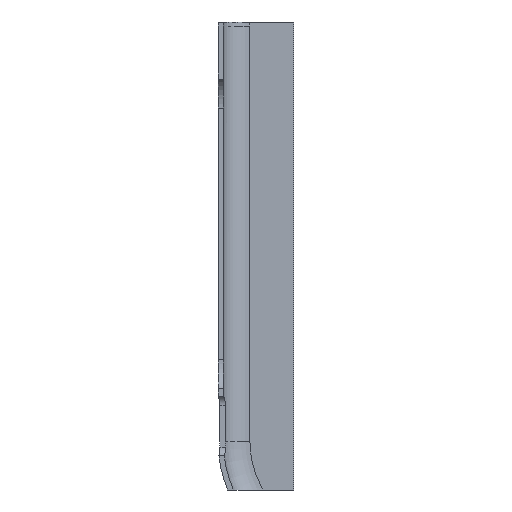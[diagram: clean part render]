
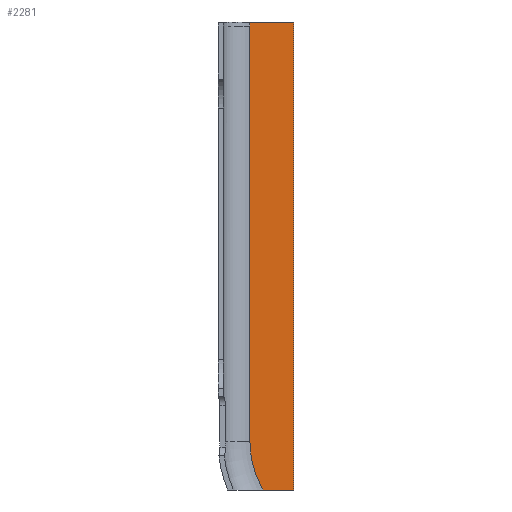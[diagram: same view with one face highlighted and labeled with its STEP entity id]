
A CAD part, front view. The second image highlights one B-rep face of the part: STEP entity #2281.
In plain terms, the highlighted planar face has unit normal (0, -1, 0).
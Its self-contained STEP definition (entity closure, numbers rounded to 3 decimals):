
#235 = CYLINDRICAL_SURFACE('',#236,6.);
#236 = AXIS2_PLACEMENT_3D('',#237,#238,#239);
#237 = CARTESIAN_POINT('',(-38.,7.2,47.));
#238 = DIRECTION('',(-0.,-0.,-1.));
#239 = DIRECTION('',(0.,1.,-0.));
#786 = VERTEX_POINT('',#787);
#787 = CARTESIAN_POINT('',(-38.,13.2,-47.));
#803 = TOROIDAL_SURFACE('',#804,22.,6.);
#804 = AXIS2_PLACEMENT_3D('',#805,#806,#807);
#805 = CARTESIAN_POINT('',(-16.,7.2,-47.));
#806 = DIRECTION('',(-0.,-1.,-0.));
#807 = DIRECTION('',(-1.,0.,0.));
#1017 = VERTEX_POINT('',#1018);
#1018 = CARTESIAN_POINT('',(-38.,13.2,47.));
#1032 = TOROIDAL_SURFACE('',#1033,22.,6.);
#1033 = AXIS2_PLACEMENT_3D('',#1034,#1035,#1036);
#1034 = CARTESIAN_POINT('',(-16.,7.2,47.));
#1035 = DIRECTION('',(-0.,-1.,-0.));
#1036 = DIRECTION('',(0.,0.,1.));
#1043 = EDGE_CURVE('',#1017,#786,#1044,.T.);
#1044 = SURFACE_CURVE('',#1045,(#1049,#1056),.PCURVE_S1.);
#1045 = LINE('',#1046,#1047);
#1046 = CARTESIAN_POINT('',(-38.,13.2,47.));
#1047 = VECTOR('',#1048,1.);
#1048 = DIRECTION('',(-0.,-0.,-1.));
#1049 = PCURVE('',#235,#1050);
#1050 = DEFINITIONAL_REPRESENTATION('',(#1051),#1055);
#1051 = LINE('',#1052,#1053);
#1052 = CARTESIAN_POINT('',(6.283,0.));
#1053 = VECTOR('',#1054,1.);
#1054 = DIRECTION('',(-0.,1.));
#1055 = ( GEOMETRIC_REPRESENTATION_CONTEXT(2) 
PARAMETRIC_REPRESENTATION_CONTEXT() REPRESENTATION_CONTEXT('2D SPACE',''
  ) );
#1056 = PCURVE('',#1057,#1062);
#1057 = PLANE('',#1058);
#1058 = AXIS2_PLACEMENT_3D('',#1059,#1060,#1061);
#1059 = CARTESIAN_POINT('',(-44.,13.2,-75.));
#1060 = DIRECTION('',(0.,1.,0.));
#1061 = DIRECTION('',(0.,-0.,1.));
#1062 = DEFINITIONAL_REPRESENTATION('',(#1063),#1067);
#1063 = LINE('',#1064,#1065);
#1064 = CARTESIAN_POINT('',(122.,6.));
#1065 = VECTOR('',#1066,1.);
#1066 = DIRECTION('',(-1.,0.));
#1067 = ( GEOMETRIC_REPRESENTATION_CONTEXT(2) 
PARAMETRIC_REPRESENTATION_CONTEXT() REPRESENTATION_CONTEXT('2D SPACE',''
  ) );
#1352 = PLANE('',#1353);
#1353 = AXIS2_PLACEMENT_3D('',#1354,#1355,#1356);
#1354 = CARTESIAN_POINT('',(-50.,-16.,-58.));
#1355 = DIRECTION('',(0.,0.,1.));
#1356 = DIRECTION('',(1.,0.,0.));
#1688 = PLANE('',#1689);
#1689 = AXIS2_PLACEMENT_3D('',#1690,#1691,#1692);
#1690 = CARTESIAN_POINT('',(-50.,-16.,48.));
#1691 = DIRECTION('',(0.,0.,1.));
#1692 = DIRECTION('',(1.,0.,0.));
#1807 = PLANE('',#1808);
#1808 = AXIS2_PLACEMENT_3D('',#1809,#1810,#1811);
#1809 = CARTESIAN_POINT('',(-28.,-16.,-58.));
#1810 = DIRECTION('',(1.,0.,0.));
#1811 = DIRECTION('',(0.,0.,1.));
#1947 = EDGE_CURVE('',#786,#1948,#1950,.T.);
#1948 = VERTEX_POINT('',#1949);
#1949 = CARTESIAN_POINT('',(-35.053,13.2,-58.));
#1950 = SURFACE_CURVE('',#1951,(#1956,#1963),.PCURVE_S1.);
#1951 = CIRCLE('',#1952,22.);
#1952 = AXIS2_PLACEMENT_3D('',#1953,#1954,#1955);
#1953 = CARTESIAN_POINT('',(-16.,13.2,-47.));
#1954 = DIRECTION('',(-0.,-1.,-0.));
#1955 = DIRECTION('',(-1.,0.,0.));
#1956 = PCURVE('',#803,#1957);
#1957 = DEFINITIONAL_REPRESENTATION('',(#1958),#1962);
#1958 = LINE('',#1959,#1960);
#1959 = CARTESIAN_POINT('',(0.,4.712));
#1960 = VECTOR('',#1961,1.);
#1961 = DIRECTION('',(1.,0.));
#1962 = ( GEOMETRIC_REPRESENTATION_CONTEXT(2) 
PARAMETRIC_REPRESENTATION_CONTEXT() REPRESENTATION_CONTEXT('2D SPACE',''
  ) );
#1963 = PCURVE('',#1057,#1964);
#1964 = DEFINITIONAL_REPRESENTATION('',(#1965),#1973);
#1965 = ( BOUNDED_CURVE() B_SPLINE_CURVE(2,(#1966,#1967,#1968,#1969,
#1970,#1971,#1972),.UNSPECIFIED.,.T.,.F.) B_SPLINE_CURVE_WITH_KNOTS((1,2
    ,2,2,2,1),(-2.094,0.,2.094,4.189,
6.283,8.378),.UNSPECIFIED.) CURVE() 
GEOMETRIC_REPRESENTATION_ITEM() RATIONAL_B_SPLINE_CURVE((1.,0.5,1.,0.5,
1.,0.5,1.)) REPRESENTATION_ITEM('') );
#1966 = CARTESIAN_POINT('',(28.,6.));
#1967 = CARTESIAN_POINT('',(-10.105,6.));
#1968 = CARTESIAN_POINT('',(8.947,39.));
#1969 = CARTESIAN_POINT('',(28.,72.));
#1970 = CARTESIAN_POINT('',(47.053,39.));
#1971 = CARTESIAN_POINT('',(66.105,6.));
#1972 = CARTESIAN_POINT('',(28.,6.));
#1973 = ( GEOMETRIC_REPRESENTATION_CONTEXT(2) 
PARAMETRIC_REPRESENTATION_CONTEXT() REPRESENTATION_CONTEXT('2D SPACE',''
  ) );
#2176 = VERTEX_POINT('',#2177);
#2177 = CARTESIAN_POINT('',(-37.977,13.2,48.));
#2255 = EDGE_CURVE('',#2176,#1017,#2256,.T.);
#2256 = SURFACE_CURVE('',#2257,(#2262,#2269),.PCURVE_S1.);
#2257 = CIRCLE('',#2258,22.);
#2258 = AXIS2_PLACEMENT_3D('',#2259,#2260,#2261);
#2259 = CARTESIAN_POINT('',(-16.,13.2,47.));
#2260 = DIRECTION('',(-0.,-1.,0.));
#2261 = DIRECTION('',(0.,0.,1.));
#2262 = PCURVE('',#1032,#2263);
#2263 = DEFINITIONAL_REPRESENTATION('',(#2264),#2268);
#2264 = LINE('',#2265,#2266);
#2265 = CARTESIAN_POINT('',(0.,4.712));
#2266 = VECTOR('',#2267,1.);
#2267 = DIRECTION('',(1.,0.));
#2268 = ( GEOMETRIC_REPRESENTATION_CONTEXT(2) 
PARAMETRIC_REPRESENTATION_CONTEXT() REPRESENTATION_CONTEXT('2D SPACE',''
  ) );
#2269 = PCURVE('',#1057,#2270);
#2270 = DEFINITIONAL_REPRESENTATION('',(#2271),#2279);
#2271 = ( BOUNDED_CURVE() B_SPLINE_CURVE(2,(#2272,#2273,#2274,#2275,
#2276,#2277,#2278),.UNSPECIFIED.,.T.,.F.) B_SPLINE_CURVE_WITH_KNOTS((1,2
    ,2,2,2,1),(-2.094,0.,2.094,4.189,
6.283,8.378),.UNSPECIFIED.) CURVE() 
GEOMETRIC_REPRESENTATION_ITEM() RATIONAL_B_SPLINE_CURVE((1.,0.5,1.,0.5,
1.,0.5,1.)) REPRESENTATION_ITEM('') );
#2272 = CARTESIAN_POINT('',(144.,28.));
#2273 = CARTESIAN_POINT('',(144.,-10.105));
#2274 = CARTESIAN_POINT('',(111.,8.947));
#2275 = CARTESIAN_POINT('',(78.,28.));
#2276 = CARTESIAN_POINT('',(111.,47.053));
#2277 = CARTESIAN_POINT('',(144.,66.105));
#2278 = CARTESIAN_POINT('',(144.,28.));
#2279 = ( GEOMETRIC_REPRESENTATION_CONTEXT(2) 
PARAMETRIC_REPRESENTATION_CONTEXT() REPRESENTATION_CONTEXT('2D SPACE',''
  ) );
#2281 = ADVANCED_FACE('',(#2282),#1057,.F.);
#2282 = FACE_BOUND('',#2283,.F.);
#2283 = EDGE_LOOP('',(#2284,#2305,#2306,#2307,#2308,#2329));
#2284 = ORIENTED_EDGE('',*,*,#2285,.F.);
#2285 = EDGE_CURVE('',#1948,#2286,#2288,.T.);
#2286 = VERTEX_POINT('',#2287);
#2287 = CARTESIAN_POINT('',(-28.,13.2,-58.));
#2288 = SURFACE_CURVE('',#2289,(#2293,#2299),.PCURVE_S1.);
#2289 = LINE('',#2290,#2291);
#2290 = CARTESIAN_POINT('',(-47.,13.2,-58.));
#2291 = VECTOR('',#2292,1.);
#2292 = DIRECTION('',(1.,0.,0.));
#2293 = PCURVE('',#1057,#2294);
#2294 = DEFINITIONAL_REPRESENTATION('',(#2295),#2298);
#2295 = B_SPLINE_CURVE_WITH_KNOTS('',1,(#2296,#2297),.UNSPECIFIED.,.F.,
  .F.,(2,2),(9.,19.),.PIECEWISE_BEZIER_KNOTS.);
#2296 = CARTESIAN_POINT('',(17.,6.));
#2297 = CARTESIAN_POINT('',(17.,16.));
#2298 = ( GEOMETRIC_REPRESENTATION_CONTEXT(2) 
PARAMETRIC_REPRESENTATION_CONTEXT() REPRESENTATION_CONTEXT('2D SPACE',''
  ) );
#2299 = PCURVE('',#1352,#2300);
#2300 = DEFINITIONAL_REPRESENTATION('',(#2301),#2304);
#2301 = B_SPLINE_CURVE_WITH_KNOTS('',1,(#2302,#2303),.UNSPECIFIED.,.F.,
  .F.,(2,2),(9.,19.),.PIECEWISE_BEZIER_KNOTS.);
#2302 = CARTESIAN_POINT('',(12.,29.2));
#2303 = CARTESIAN_POINT('',(22.,29.2));
#2304 = ( GEOMETRIC_REPRESENTATION_CONTEXT(2) 
PARAMETRIC_REPRESENTATION_CONTEXT() REPRESENTATION_CONTEXT('2D SPACE',''
  ) );
#2305 = ORIENTED_EDGE('',*,*,#1947,.F.);
#2306 = ORIENTED_EDGE('',*,*,#1043,.F.);
#2307 = ORIENTED_EDGE('',*,*,#2255,.F.);
#2308 = ORIENTED_EDGE('',*,*,#2309,.T.);
#2309 = EDGE_CURVE('',#2176,#2310,#2312,.T.);
#2310 = VERTEX_POINT('',#2311);
#2311 = CARTESIAN_POINT('',(-28.,13.2,48.));
#2312 = SURFACE_CURVE('',#2313,(#2317,#2323),.PCURVE_S1.);
#2313 = LINE('',#2314,#2315);
#2314 = CARTESIAN_POINT('',(-47.,13.2,48.));
#2315 = VECTOR('',#2316,1.);
#2316 = DIRECTION('',(1.,0.,0.));
#2317 = PCURVE('',#1057,#2318);
#2318 = DEFINITIONAL_REPRESENTATION('',(#2319),#2322);
#2319 = B_SPLINE_CURVE_WITH_KNOTS('',1,(#2320,#2321),.UNSPECIFIED.,.F.,
  .F.,(2,2),(9.,19.),.PIECEWISE_BEZIER_KNOTS.);
#2320 = CARTESIAN_POINT('',(123.,6.));
#2321 = CARTESIAN_POINT('',(123.,16.));
#2322 = ( GEOMETRIC_REPRESENTATION_CONTEXT(2) 
PARAMETRIC_REPRESENTATION_CONTEXT() REPRESENTATION_CONTEXT('2D SPACE',''
  ) );
#2323 = PCURVE('',#1688,#2324);
#2324 = DEFINITIONAL_REPRESENTATION('',(#2325),#2328);
#2325 = B_SPLINE_CURVE_WITH_KNOTS('',1,(#2326,#2327),.UNSPECIFIED.,.F.,
  .F.,(2,2),(9.,19.),.PIECEWISE_BEZIER_KNOTS.);
#2326 = CARTESIAN_POINT('',(12.,29.2));
#2327 = CARTESIAN_POINT('',(22.,29.2));
#2328 = ( GEOMETRIC_REPRESENTATION_CONTEXT(2) 
PARAMETRIC_REPRESENTATION_CONTEXT() REPRESENTATION_CONTEXT('2D SPACE',''
  ) );
#2329 = ORIENTED_EDGE('',*,*,#2330,.T.);
#2330 = EDGE_CURVE('',#2310,#2286,#2331,.T.);
#2331 = SURFACE_CURVE('',#2332,(#2336,#2342),.PCURVE_S1.);
#2332 = LINE('',#2333,#2334);
#2333 = CARTESIAN_POINT('',(-28.,13.2,-66.5));
#2334 = VECTOR('',#2335,1.);
#2335 = DIRECTION('',(0.,0.,-1.));
#2336 = PCURVE('',#1057,#2337);
#2337 = DEFINITIONAL_REPRESENTATION('',(#2338),#2341);
#2338 = B_SPLINE_CURVE_WITH_KNOTS('',1,(#2339,#2340),.UNSPECIFIED.,.F.,
  .F.,(2,2),(-114.5,-8.5),.PIECEWISE_BEZIER_KNOTS.);
#2339 = CARTESIAN_POINT('',(123.,16.));
#2340 = CARTESIAN_POINT('',(17.,16.));
#2341 = ( GEOMETRIC_REPRESENTATION_CONTEXT(2) 
PARAMETRIC_REPRESENTATION_CONTEXT() REPRESENTATION_CONTEXT('2D SPACE',''
  ) );
#2342 = PCURVE('',#1807,#2343);
#2343 = DEFINITIONAL_REPRESENTATION('',(#2344),#2347);
#2344 = B_SPLINE_CURVE_WITH_KNOTS('',1,(#2345,#2346),.UNSPECIFIED.,.F.,
  .F.,(2,2),(-114.5,-8.5),.PIECEWISE_BEZIER_KNOTS.);
#2345 = CARTESIAN_POINT('',(106.,-29.2));
#2346 = CARTESIAN_POINT('',(0.,-29.2));
#2347 = ( GEOMETRIC_REPRESENTATION_CONTEXT(2) 
PARAMETRIC_REPRESENTATION_CONTEXT() REPRESENTATION_CONTEXT('2D SPACE',''
  ) );
